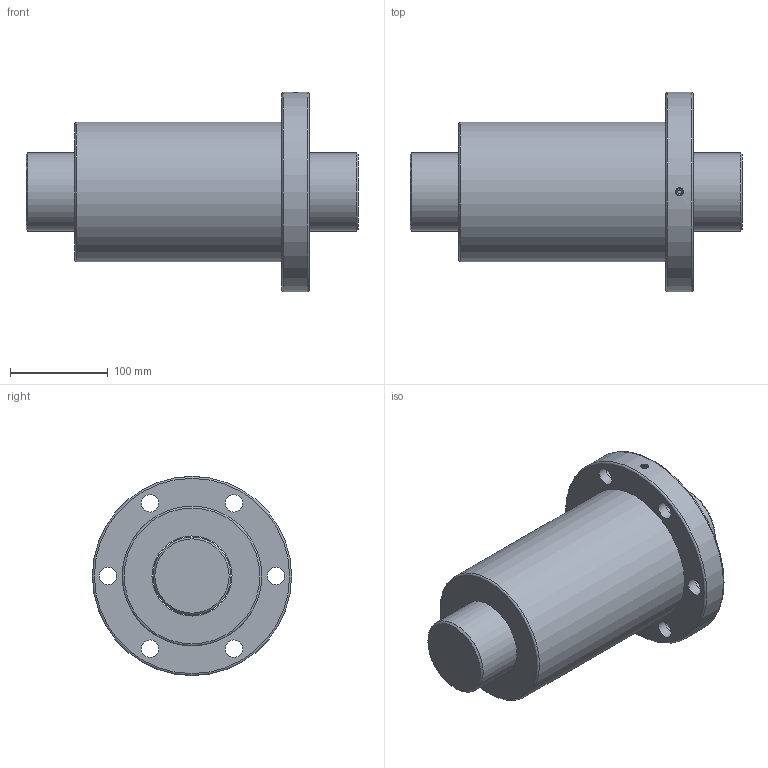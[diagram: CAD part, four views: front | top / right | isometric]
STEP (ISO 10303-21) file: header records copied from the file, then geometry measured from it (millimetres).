
FILE_DESCRIPTION (( 'STEP AP203' ), '1' );
FILE_NAME ('SFV08020-7.6.stp.STEP', '2023-08-16T03:38:58', ( '' ), ( '' ), 'SwSTEP 2.0', 'SolidWorks 2022', '' );
FILE_SCHEMA (( 'CONFIG_CONTROL_DESIGN' ));
Length unit declared in the file: millimetre
Products named in the file (1): SFV08020-7.6.stp
Bounding box: 340 x 204 x 204 mm (x, y, z)
Volume: 4685532.4 mm3; surface area: 333321.6 mm2
Topology: 2 solids, 2 shells, 40 faces, 85 edges, 56 vertices
Faces by surface type: cylinder 20, plane 12, cone 3, torus 3, bspline 2
Full cylindrical faces by diameter (mm): 4 x1, 6.917 x1, 18 x6, 26 x6, 80 x1, 82 x1, 143 x1, 204 x1
Entity records: 2819 total; most frequent: CARTESIAN_POINT 1985, DIRECTION 162, ORIENTED_EDGE 106, EDGE_LOOP 87, AXIS2_PLACEMENT_3D 81, FACE_OUTER_BOUND 61, EDGE_CURVE 53, VERTEX_POINT 48
